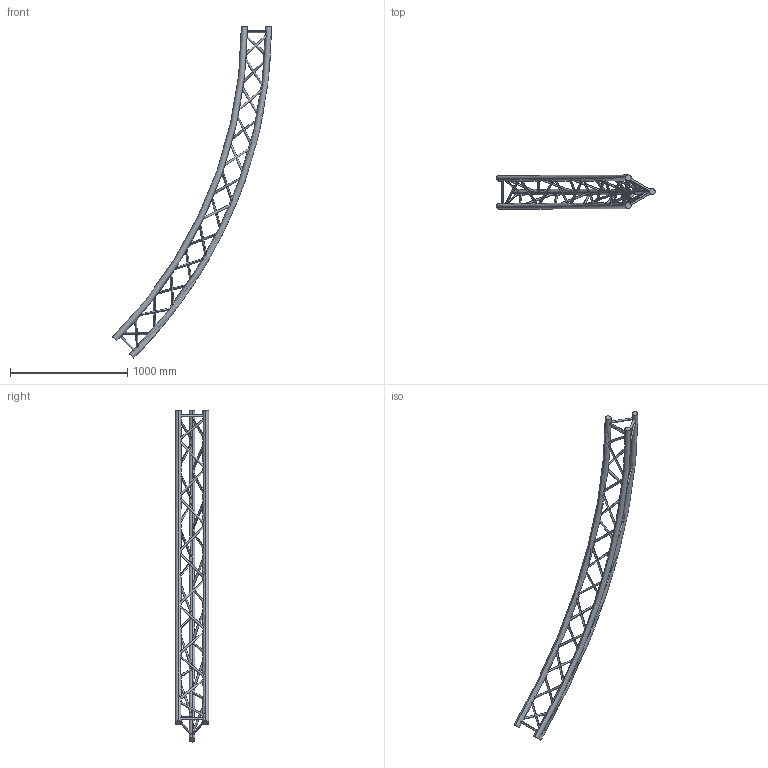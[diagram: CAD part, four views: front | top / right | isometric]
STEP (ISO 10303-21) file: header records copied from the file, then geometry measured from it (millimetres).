
FILE_DESCRIPTION (( 'STEP AP203' ), '1' );
FILE_NAME ('SXC29800PE.STEP', '2009-10-21T09:20:45', ( 'CEDIA' ), ( 'CEDIA INDUSTRIE' ), 'SwSTEP 2.0', 'SolidWorks 2009', '' );
FILE_SCHEMA (( 'CONFIG_CONTROL_DESIGN' ));
Length unit declared in the file: millimetre
Products named in the file (1): SXC29800PE
Bounding box: 1352.06 x 287 x 2828.43 mm (x, y, z)
Volume: 19895741.1 mm3; surface area: 1945912.2 mm2
Topology: 1 solids, 1 shells, 96 faces, 270 edges, 180 vertices
Faces by surface type: cylinder 84, torus 6, plane 6
Entity records: 10779 total; most frequent: CARTESIAN_POINT 8373, ORIENTED_EDGE 540, DIRECTION 314, EDGE_CURVE 270, VERTEX_POINT 180, EDGE_LOOP 180, B_SPLINE_CURVE_WITH_KNOTS 168, AXIS2_PLACEMENT_3D 115
